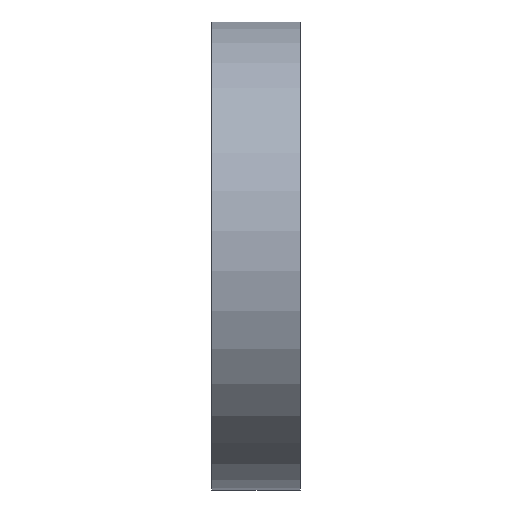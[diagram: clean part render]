
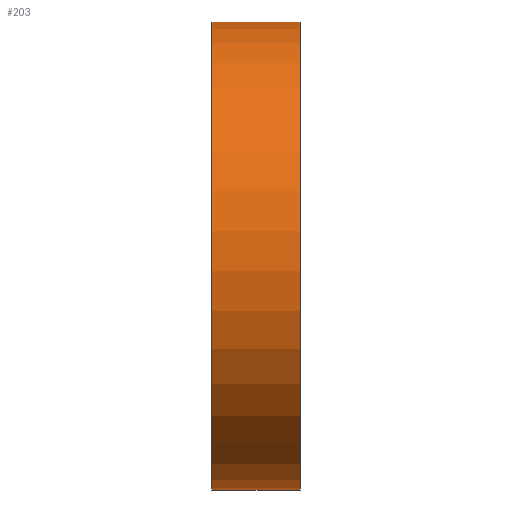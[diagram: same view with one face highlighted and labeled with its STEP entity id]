
A CAD part, left-side view. The second image highlights one B-rep face of the part: STEP entity #203.
In plain terms, the highlighted cylindrical face has radius 3.357 mm (diameter 6.714 mm), a partial arc.
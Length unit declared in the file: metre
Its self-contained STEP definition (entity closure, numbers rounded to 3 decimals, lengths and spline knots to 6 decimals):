
#14=CYLINDRICAL_SURFACE('',#233,0.003357);
#17=CIRCLE('',#223,0.003357);
#18=CIRCLE('',#225,0.003357);
#59=ORIENTED_EDGE('',*,*,#88,.T.);
#60=ORIENTED_EDGE('',*,*,#98,.T.);
#61=ORIENTED_EDGE('',*,*,#83,.F.);
#62=ORIENTED_EDGE('',*,*,#99,.F.);
#83=EDGE_CURVE('',#110,#107,#17,.T.);
#88=EDGE_CURVE('',#112,#115,#18,.T.);
#98=EDGE_CURVE('',#115,#107,#137,.T.);
#99=EDGE_CURVE('',#112,#110,#138,.T.);
#107=VERTEX_POINT('',#306);
#110=VERTEX_POINT('',#312);
#112=VERTEX_POINT('',#317);
#115=VERTEX_POINT('',#323);
#137=LINE('',#343,#158);
#138=LINE('',#345,#159);
#158=VECTOR('',#282,1.);
#159=VECTOR('',#285,1.);
#171=EDGE_LOOP('',(#59,#60,#61,#62));
#184=FACE_BOUND('',#171,.T.);
#203=ADVANCED_FACE('',(#184),#14,.T.);
#223=AXIS2_PLACEMENT_3D('',#313,#251,#252);
#225=AXIS2_PLACEMENT_3D('',#324,#259,#260);
#233=AXIS2_PLACEMENT_3D('',#344,#283,#284);
#251=DIRECTION('',(0.,1.,0.));
#252=DIRECTION('',(1.,0.,0.));
#259=DIRECTION('',(0.,1.,0.));
#260=DIRECTION('',(1.,0.,0.));
#282=DIRECTION('',(0.,1.,0.));
#283=DIRECTION('',(0.,1.,0.));
#284=DIRECTION('',(1.,0.,0.));
#285=DIRECTION('',(0.,1.,0.));
#306=CARTESIAN_POINT('',(-0.057383,0.00127,-0.011322));
#312=CARTESIAN_POINT('',(-0.057219,0.00127,-0.013862));
#313=CARTESIAN_POINT('',(-0.060401,0.00127,-0.012792));
#317=CARTESIAN_POINT('',(-0.057219,0.,-0.013862));
#323=CARTESIAN_POINT('',(-0.057383,0.,-0.011322));
#324=CARTESIAN_POINT('',(-0.060401,0.,-0.012792));
#343=CARTESIAN_POINT('',(-0.057383,-0.02413,-0.011322));
#344=CARTESIAN_POINT('',(-0.060401,-0.02413,-0.012792));
#345=CARTESIAN_POINT('',(-0.057219,-0.02413,-0.013862));
